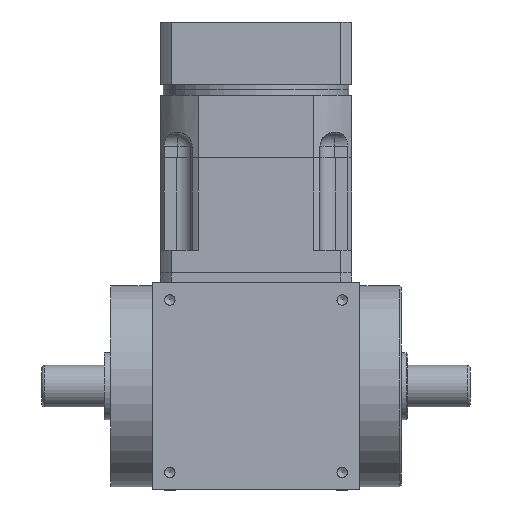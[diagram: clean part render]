
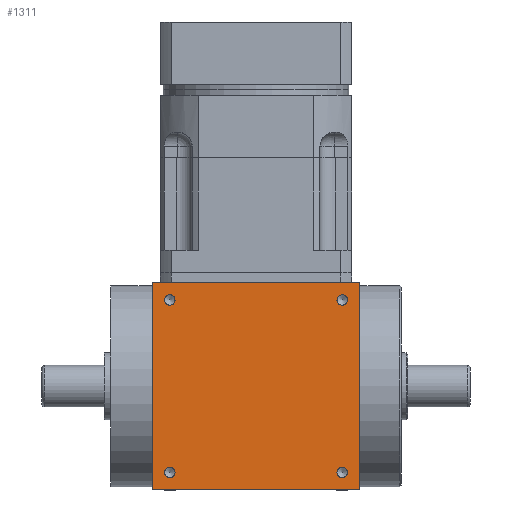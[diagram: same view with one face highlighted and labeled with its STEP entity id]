
A CAD part, left-side view. The second image highlights one B-rep face of the part: STEP entity #1311.
In plain terms, the highlighted planar face has unit normal (-1, 0, 0).
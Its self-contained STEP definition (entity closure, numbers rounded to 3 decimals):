
#596=FACE_BOUND('',#2346,.T.);
#597=FACE_BOUND('',#2347,.T.);
#598=FACE_BOUND('',#2348,.T.);
#599=FACE_BOUND('',#2349,.T.);
#600=FACE_BOUND('',#2350,.T.);
#904=PLANE('',#8370);
#1311=ADVANCED_FACE('',(#596,#597,#598,#599,#600),#904,.T.);
#2346=EDGE_LOOP('',(#5277));
#2347=EDGE_LOOP('',(#5278));
#2348=EDGE_LOOP('',(#5279));
#2349=EDGE_LOOP('',(#5280));
#2350=EDGE_LOOP('',(#5281,#5282,#5283,#5284));
#2766=LINE('',#12300,#3299);
#2983=LINE('',#13120,#3516);
#2984=LINE('',#13122,#3517);
#2985=LINE('',#13124,#3518);
#3299=VECTOR('',#9643,1.);
#3516=VECTOR('',#10482,1.);
#3517=VECTOR('',#10483,1.);
#3518=VECTOR('',#10484,1.);
#5277=ORIENTED_EDGE('',*,*,#7142,.T.);
#5278=ORIENTED_EDGE('',*,*,#7140,.T.);
#5279=ORIENTED_EDGE('',*,*,#7178,.T.);
#5280=ORIENTED_EDGE('',*,*,#7179,.T.);
#5281=ORIENTED_EDGE('',*,*,#7180,.T.);
#5282=ORIENTED_EDGE('',*,*,#6823,.T.);
#5283=ORIENTED_EDGE('',*,*,#7181,.F.);
#5284=ORIENTED_EDGE('',*,*,#7182,.T.);
#5912=VERTEX_POINT('',#12295);
#5914=VERTEX_POINT('',#12299);
#6163=VERTEX_POINT('',#13015);
#6164=VERTEX_POINT('',#13019);
#6205=VERTEX_POINT('',#13117);
#6206=VERTEX_POINT('',#13119);
#6207=VERTEX_POINT('',#13121);
#6208=VERTEX_POINT('',#13123);
#6823=EDGE_CURVE('',#5912,#5914,#2766,.T.);
#7140=EDGE_CURVE('',#6163,#6163,#7569,.T.);
#7142=EDGE_CURVE('',#6164,#6164,#7570,.T.);
#7178=EDGE_CURVE('',#6205,#6205,#7587,.T.);
#7179=EDGE_CURVE('',#6206,#6206,#7588,.T.);
#7180=EDGE_CURVE('',#6207,#5912,#2983,.T.);
#7181=EDGE_CURVE('',#6208,#5914,#2984,.T.);
#7182=EDGE_CURVE('',#6208,#6207,#2985,.T.);
#7569=CIRCLE('',#8308,1.65);
#7570=CIRCLE('',#8311,1.65);
#7587=CIRCLE('',#8368,1.65);
#7588=CIRCLE('',#8369,1.65);
#8308=AXIS2_PLACEMENT_3D('',#13014,#10358,#10359);
#8311=AXIS2_PLACEMENT_3D('',#13018,#10364,#10365);
#8368=AXIS2_PLACEMENT_3D('',#13116,#10478,#10479);
#8369=AXIS2_PLACEMENT_3D('',#13118,#10480,#10481);
#8370=AXIS2_PLACEMENT_3D('',#13125,#10485,#10486);
#9643=DIRECTION('',(0.,1.,0.));
#10358=DIRECTION('',(1.,0.,0.));
#10359=DIRECTION('',(0.,0.,-1.));
#10364=DIRECTION('',(1.,0.,0.));
#10365=DIRECTION('',(0.,0.,-1.));
#10478=DIRECTION('',(1.,0.,0.));
#10479=DIRECTION('',(0.,0.,-1.));
#10480=DIRECTION('',(1.,0.,0.));
#10481=DIRECTION('',(0.,0.,-1.));
#10482=DIRECTION('',(0.,0.,1.));
#10483=DIRECTION('',(0.,0.,1.));
#10484=DIRECTION('',(0.,-1.,0.));
#10485=DIRECTION('',(-1.,0.,0.));
#10486=DIRECTION('',(0.,0.,-1.));
#12295=CARTESIAN_POINT('',(0.,0.,65.));
#12299=CARTESIAN_POINT('',(0.,65.,65.));
#12300=CARTESIAN_POINT('',(0.,32.5,65.));
#13014=CARTESIAN_POINT('',(0.,5.5,5.5));
#13015=CARTESIAN_POINT('',(0.,5.5,3.85));
#13018=CARTESIAN_POINT('',(0.,59.5,5.5));
#13019=CARTESIAN_POINT('',(0.,59.5,3.85));
#13116=CARTESIAN_POINT('',(0.,59.5,59.5));
#13117=CARTESIAN_POINT('',(0.,59.5,57.85));
#13118=CARTESIAN_POINT('',(0.,5.5,59.5));
#13119=CARTESIAN_POINT('',(0.,5.5,57.85));
#13120=CARTESIAN_POINT('',(0.,0.,0.));
#13121=CARTESIAN_POINT('',(0.,0.,0.));
#13122=CARTESIAN_POINT('',(0.,65.,0.));
#13123=CARTESIAN_POINT('',(0.,65.,0.));
#13124=CARTESIAN_POINT('',(0.,32.5,0.));
#13125=CARTESIAN_POINT('',(0.,32.5,0.));
